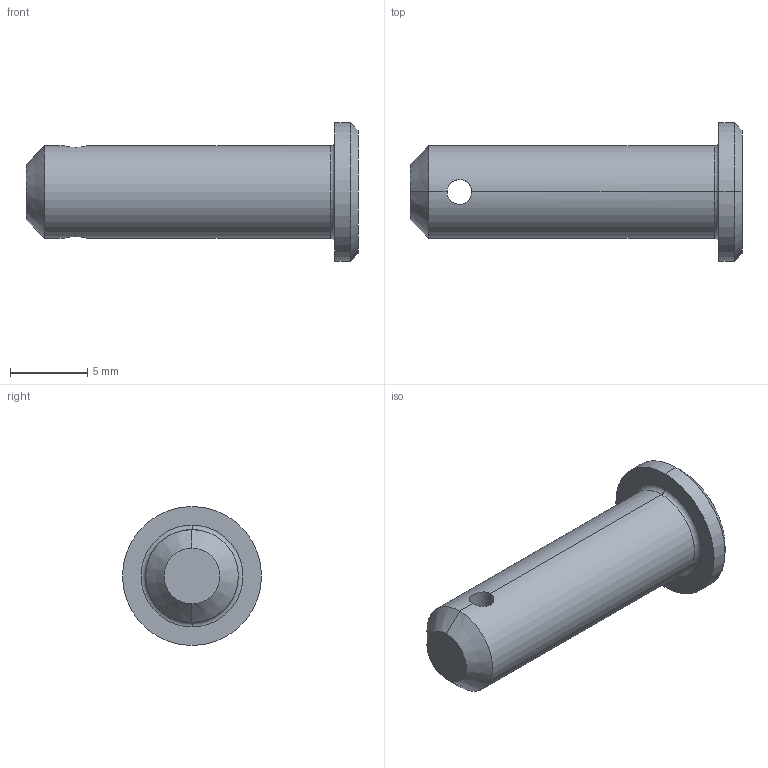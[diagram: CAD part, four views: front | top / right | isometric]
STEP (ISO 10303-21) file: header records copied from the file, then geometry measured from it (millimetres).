
FILE_DESCRIPTION (( 'STEP AP203' ), '1' );
FILE_NAME ('Wiberger-sms2360_6x20.step', '2012-10-09T08:58:13', ( 'Magnus' ), ( 'Wiberger' ), 'SwSTEP 2.0', 'SolidWorks 2011', '' );
FILE_SCHEMA (( 'CONFIG_CONTROL_DESIGN' ));
Length unit declared in the file: millimetre
Products named in the file (1): Wiberger-sms2360_6x20
Bounding box: 21.5 x 9 x 9 mm (x, y, z)
Volume: 634.2 mm3; surface area: 546.1 mm2
Topology: 1 solids, 1 shells, 15 faces, 32 edges, 18 vertices
Faces by surface type: cylinder 6, cone 4, plane 3, torus 2
Entity records: 539 total; most frequent: CARTESIAN_POINT 130, DIRECTION 76, ORIENTED_EDGE 64, EDGE_CURVE 32, AXIS2_PLACEMENT_3D 32, VERTEX_POINT 18, EDGE_LOOP 16, CIRCLE 16
